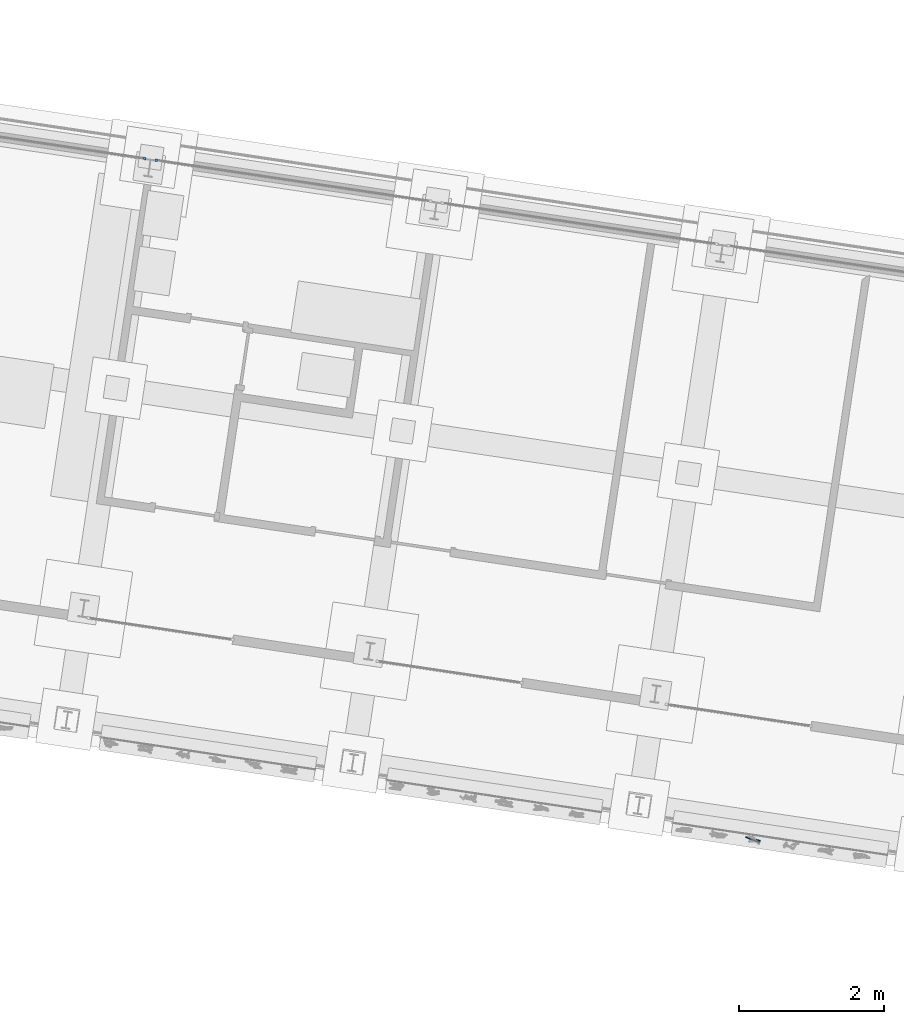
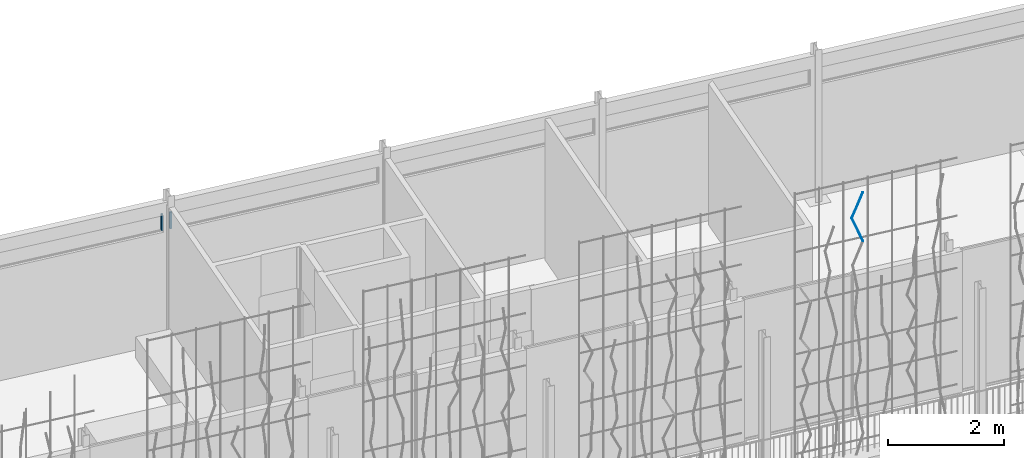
# One storey, part 123 of 143: 4 members, 1 element without a shape of its own.
"""IFC4 building model written with IfcOpenShell, lengths in metres."""

from ifc_helpers import new_model, si_unit, direction, frame, origin_with_axes, place, context, subcontext, project, spatial, rectangle, circle, extrude, material, material_profile, profile_set, profile_usage, type_object, element, aggregate, save


model = new_model("IFC4")

# Units and contexts
model_context = context("Model", 3, precision=1e-05, world=origin_with_axes(), true_north=direction((0.0, 1.0)))
body_context = subcontext(model_context, "Body", "Model", "MODEL_VIEW")
ifc_project = project(units=[si_unit("VOLUMEUNIT", "CUBIC_METRE"), si_unit("LENGTHUNIT", "METRE"), si_unit("AREAUNIT", "SQUARE_METRE")], contexts=[model_context])

# Site, building, storey
site_placement = place(None, origin_with_axes())
site = spatial("IfcSite", under=ifc_project, at=site_placement, Name="Lares · Rua das Mercês · artigo 4771")
building_placement = place(site_placement, frame((15.0, 9.7, 15.8), z_axis=(0.0, 0.0, 1.0), x_axis=(0.989015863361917, -0.147809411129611, 0.0)))
building = spatial("IfcBuilding", under=site, at=building_placement, Name="Casa Sobreposta")
storey_placement = place(building_placement, origin_with_axes())
storey = spatial("IfcBuildingStorey", under=building, at=storey_placement, Name="00 · Habitação e estacionamento", Elevation=15.8)

# Members
ifc_material_1 = material(Name="Aço pintado / Stahl lackiert", Category="steel")
ifc_material_profile_1 = material_profile(ifc_material_1, rectangle(XDim=0.035, YDim=0.035))
ifc_profile_set_1 = profile_set([ifc_material_profile_1], Name="R0.035")
ifc_profile_usage_1 = profile_usage(ifc_profile_set_1)
member_type_1 = type_object("IfcMemberType", Name="R0.035 / steel", PredefinedType="NOTDEFINED", material=ifc_profile_set_1)
member_1_placement = place(storey_placement, frame((7.92, 6.4, 2.35), z_axis=(0.0, 0.0, 1.0), x_axis=(1.0, 0.0, 0.0)))
element("IfcMember", 1, at=member_1_placement, inside=storey, type_object=member_type_1, material=ifc_profile_usage_1, Name="Rasgo norte 2 · montante", context=body_context, shape_type="SweptSolid", body=[
    extrude(rectangle(XDim=0.035, YDim=0.035), origin_with_axes(), (0.0, 0.0, 1.0), 0.35),
])
ifc_profile_usage_2 = profile_usage(ifc_profile_set_1)
member_2_placement = place(storey_placement, frame((8.08, 6.4, 2.35), z_axis=(0.0, 0.0, 1.0), x_axis=(1.0, 0.0, 0.0)))
element("IfcMember", 2, at=member_2_placement, inside=storey, type_object=member_type_1, material=ifc_profile_usage_2, Name="Rasgo norte 3 · montante", context=body_context, shape_type="SweptSolid", body=[
    extrude(rectangle(XDim=0.035, YDim=0.035), origin_with_axes(), (0.0, 0.0, 1.0), 0.35),
])

# Assembly, members
assembly_placement = place(storey_placement, origin_with_axes())
assembly = element("IfcElementAssembly", 3, at=assembly_placement, inside=storey, Name="Fachada sul e pátio · estrutura e trepadeiras", ObjectType="LIVING_SHADE_TRELLIS", PredefinedType="USERDEFINED")
ifc_material_2 = material(Name="Ramos de trepadeiras", Category="wood")
ifc_material_profile_2 = material_profile(ifc_material_2, circle(Radius=0.0075))
ifc_profile_set_2 = profile_set([ifc_material_profile_2], Name="D0.015")
ifc_profile_usage_3 = profile_usage(ifc_profile_set_2)
member_type_2 = type_object("IfcMemberType", Name="D0.015 / vine_wood", PredefinedType="NOTDEFINED", material=ifc_profile_set_2)
member_3_placement = place(assembly_placement, frame((17.7255981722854, -1.69672146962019, 4.88222430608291), z_axis=(-0.353324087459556, 0.0784717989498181, 0.932203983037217), x_axis=(0.216812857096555, 0.976213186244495, 0.0)))
member_3 = element("IfcMember", 4, at=member_3_placement, type_object=member_type_2, material=ifc_profile_usage_3, Name="Trepadeiras · ramo", context=body_context, shape_type="SweptSolid", body=[
    extrude(circle(Radius=0.0075), origin_with_axes(), (0.0, 0.0, 1.0), 0.540204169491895),
])
ifc_profile_usage_4 = profile_usage(ifc_profile_set_2)
member_4_placement = place(assembly_placement, frame((17.5347310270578, -1.65433067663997, 5.38580478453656), z_axis=(0.357502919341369, -0.0392603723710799, 0.93308642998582), x_axis=(-0.109162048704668, -0.994023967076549, 0.0)))
member_4 = element("IfcMember", 5, at=member_4_placement, type_object=member_type_2, material=ifc_profile_usage_4, Name="Trepadeiras · ramo", context=body_context, shape_type="SweptSolid", body=[
    extrude(circle(Radius=0.0075), origin_with_axes(), (0.0, 0.0, 1.0), 0.539693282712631),
])
aggregate(assembly, [member_3, member_4])

save(model, "model.ifc")
